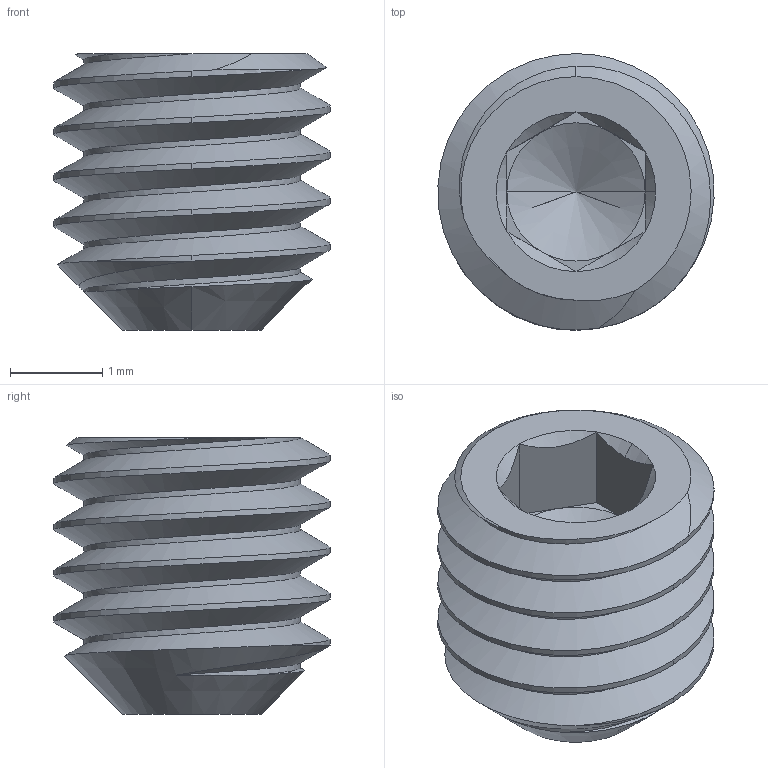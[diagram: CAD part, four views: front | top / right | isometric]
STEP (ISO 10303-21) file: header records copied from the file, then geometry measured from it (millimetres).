
FILE_DESCRIPTION (( 'STEP AP203' ), '1' );
FILE_NAME ('Cup-Point Set Screw 3x3.STEP', '2025-09-25T16:32:53', ( '' ), ( '' ), 'SwSTEP 2.0', 'SolidWorks 2024', '' );
FILE_SCHEMA (( 'CONFIG_CONTROL_DESIGN' ));
Length unit declared in the file: millimetre
Products named in the file (1): Cup-Point Set Screw 3x3
Bounding box: 3 x 3 x 3 mm (x, y, z)
Volume: 13.2 mm3; surface area: 52.6 mm2
Topology: 1 solids, 1 shells, 41 faces, 97 edges, 55 vertices
Faces by surface type: cone 15, plane 13, cylinder 10, bspline 3
Entity records: 1935 total; most frequent: CARTESIAN_POINT 1041, ORIENTED_EDGE 186, DIRECTION 151, EDGE_CURVE 93, AXIS2_PLACEMENT_3D 58, VERTEX_POINT 55, EDGE_LOOP 42, ADVANCED_FACE 41
